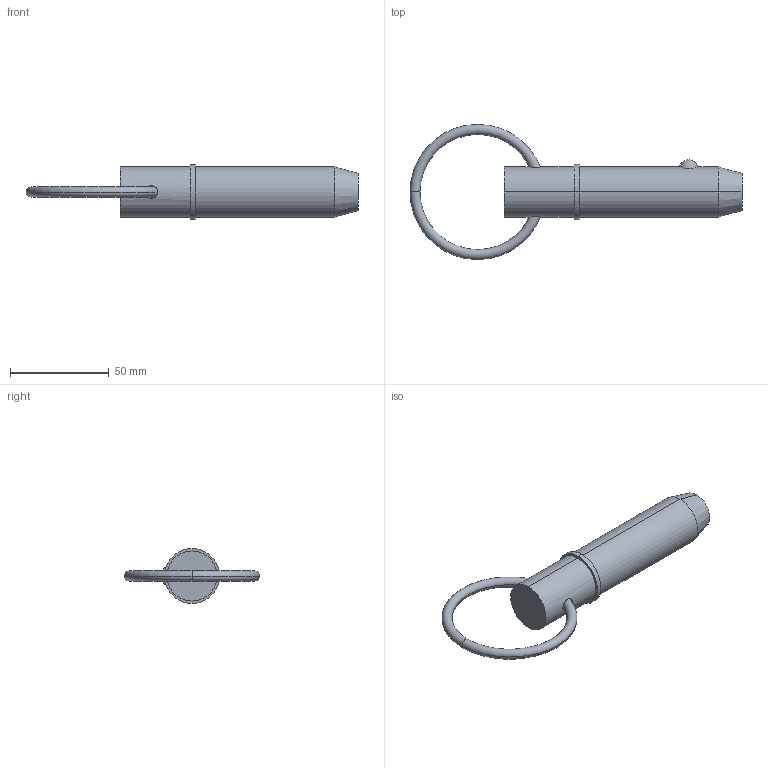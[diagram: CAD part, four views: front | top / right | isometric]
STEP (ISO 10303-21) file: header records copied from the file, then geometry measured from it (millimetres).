
FILE_DESCRIPTION (( 'STEP AP203' ), '1' );
FILE_NAME ('33016.W1020.step', '2024-11-07T11:18:09', ( '' ), ( '' ), 'SwSTEP 2.0', 'SolidWorks 2019', '' );
FILE_SCHEMA (( 'CONFIG_CONTROL_DESIGN' ));
Length unit declared in the file: millimetre
Products named in the file (3): Part2_33016.W1020; 33016.W1020; Part1_33016.W1020
Assembly tree (2 placements, depth 2):
  33016.W1020
    Part1_33016.W1020
    Part2_33016.W1020
Bounding box: 168.42 x 68.58 x 27.94 mm (x, y, z)
Volume: 63411.9 mm3; surface area: 14240.1 mm2
Topology: 2 solids, 2 shells, 22 faces, 43 edges, 26 vertices
Faces by surface type: torus 8, cylinder 6, plane 4, sphere 2, cone 2
Entity records: 1075 total; most frequent: CARTESIAN_POINT 298, DIRECTION 120, ORIENTED_EDGE 86, AXIS2_PLACEMENT_3D 56, EDGE_CURVE 43, CIRCLE 29, EDGE_LOOP 27, VERTEX_POINT 26
